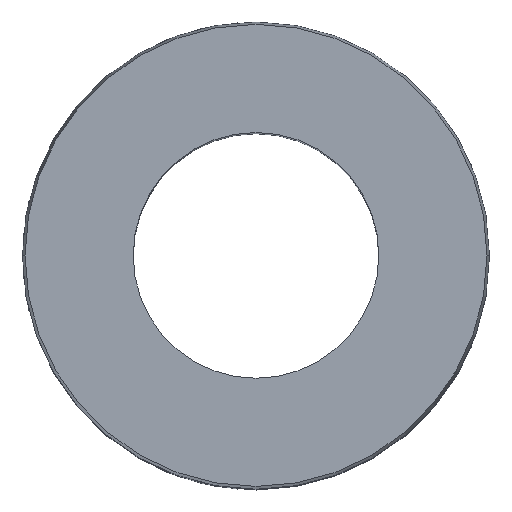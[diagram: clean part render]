
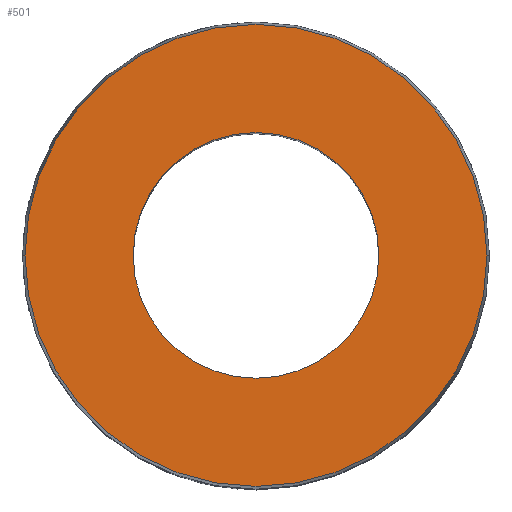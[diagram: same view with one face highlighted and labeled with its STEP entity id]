
A CAD part, top view. The second image highlights one B-rep face of the part: STEP entity #501.
In plain terms, the highlighted planar face has unit normal (0, 0, 1).
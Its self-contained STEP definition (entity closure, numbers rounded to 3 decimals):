
#49=CARTESIAN_POINT('',(-7.799,1.811,29.));
#50=VERTEX_POINT('',#49);
#59=CARTESIAN_POINT('',(2.201,1.811,29.));
#60=VERTEX_POINT('',#59);
#61=CARTESIAN_POINT('',(-2.799,1.811,29.));
#62=DIRECTION('',(0.0,0.0,-1.0));
#63=DIRECTION('',(-1.0,0.0,0.0));
#64=AXIS2_PLACEMENT_3D('',#61,#62,#63);
#65=CIRCLE('',#64,5.0);
#66=EDGE_CURVE('',#60,#50,#65,.T.);
#277=CARTESIAN_POINT('',(-12.199,1.811,29.0));
#278=VERTEX_POINT('',#277);
#285=CARTESIAN_POINT('',(6.601,1.811,29.));
#286=VERTEX_POINT('',#285);
#287=CARTESIAN_POINT('',(-2.799,1.811,29.));
#288=DIRECTION('',(0.0,0.0,-1.0));
#289=DIRECTION('',(-1.0,0.0,0.0));
#290=AXIS2_PLACEMENT_3D('',#287,#288,#289);
#291=CIRCLE('',#290,9.4);
#292=EDGE_CURVE('',#278,#286,#291,.T.);
#454=CARTESIAN_POINT('',(-2.799,1.811,29.));
#455=DIRECTION('',(0.0,0.0,-1.0));
#456=DIRECTION('',(-1.0,0.0,0.0));
#457=AXIS2_PLACEMENT_3D('',#454,#455,#456);
#458=CIRCLE('',#457,9.4);
#459=EDGE_CURVE('',#286,#278,#458,.T.);
#482=CARTESIAN_POINT('',(-2.799,1.811,29.));
#483=DIRECTION('',(0.0,0.0,-1.0));
#484=DIRECTION('',(-1.0,0.0,0.0));
#485=AXIS2_PLACEMENT_3D('',#482,#483,#484);
#486=PLANE('',#485);
#487=ORIENTED_EDGE('',*,*,#459,.F.);
#488=ORIENTED_EDGE('',*,*,#292,.F.);
#489=EDGE_LOOP('',(#487,#488));
#490=FACE_OUTER_BOUND('',#489,.T.);
#491=ORIENTED_EDGE('',*,*,#66,.T.);
#492=CARTESIAN_POINT('',(-2.799,1.811,29.));
#493=DIRECTION('',(0.0,0.0,-1.0));
#494=DIRECTION('',(-1.0,0.0,0.0));
#495=AXIS2_PLACEMENT_3D('',#492,#493,#494);
#496=CIRCLE('',#495,5.0);
#497=EDGE_CURVE('',#50,#60,#496,.T.);
#498=ORIENTED_EDGE('',*,*,#497,.T.);
#499=EDGE_LOOP('',(#491,#498));
#500=FACE_BOUND('',#499,.T.);
#501=ADVANCED_FACE('',(#490,#500),#486,.F.);
